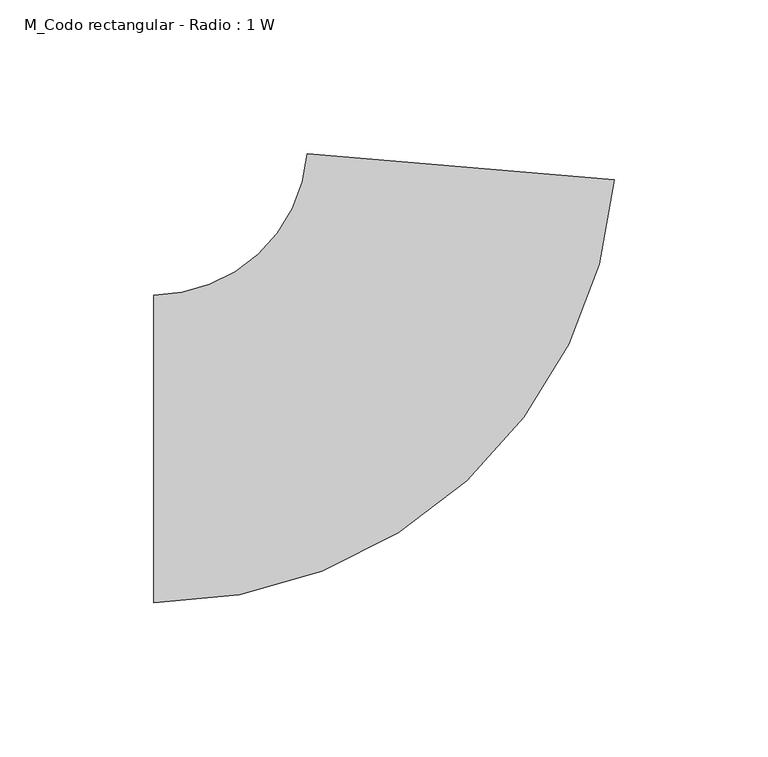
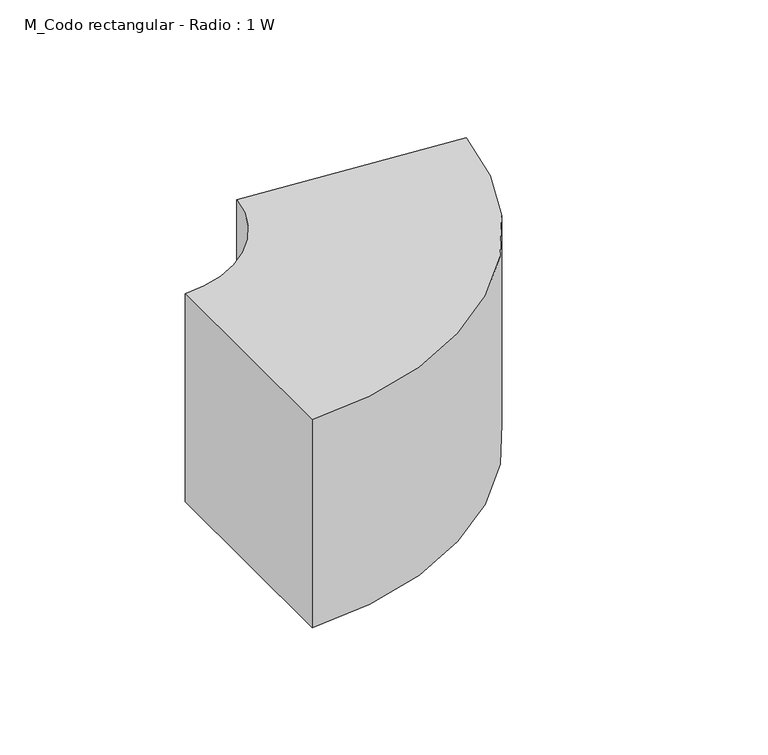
"""IFC4 building model written with IfcOpenShell, lengths in millimetres: duct fitting geometry, M_Codo rectangular - Radio : 1 W."""

import ifcopenshell
import ifcopenshell.guid

model = None  # the IFC model being written
_history = None  # IfcOwnerHistory: only IFC2X3 demands one
_inside = {}  # id of a spatial element -> (the spatial element, [elements in it])
_under = {}  # id of a project, library or spatial element -> (it, [spatial elements below it])
_declared = {}  # id of a project -> (the project, [libraries it declares])
_typed = {}  # id of a type object -> (the type object, [elements of that type])
_made_of = {}  # id of a material, layer set ... -> (it, [elements and type objects made of it])


def new_model(schema):
    """Start an empty IFC model of exactly this schema.

    Asked for "IFC4X3", IfcOpenShell would pick the latest addendum, in which some entities
    have other attributes; the version numbers below select the first issue.
    IFC2X3 requires an IfcOwnerHistory on every rooted entity: one is made here for all.
    """
    global model, _history
    if schema == "IFC4X3":
        model = ifcopenshell.file(schema_version=(4, 3, 0, 0))
    else:
        model = ifcopenshell.file(schema=schema)
    _inside.clear()
    _under.clear()
    _declared.clear()
    _typed.clear()
    _made_of.clear()
    _history = None
    if model.schema == "IFC2X3":
        org = make("IfcOrganization", Name="unknown")
        user = make(
            "IfcPersonAndOrganization",
            ThePerson=make("IfcPerson", FamilyName="unknown"),
            TheOrganization=org,
        )
        app = make(
            "IfcApplication",
            ApplicationDeveloper=org,
            Version="unknown",
            ApplicationFullName="unknown",
            ApplicationIdentifier="unknown",
        )
        _history = make(
            "IfcOwnerHistory",
            OwningUser=user,
            OwningApplication=app,
            ChangeAction="ADDED",
            CreationDate=0,
        )
    return model


def make(cls, **values):
    """One entity of the class cls with the attributes given. An attribute that is None is left unset."""
    return model.create_entity(
        cls, **{name: value for name, value in values.items() if value is not None}
    )


def rooted(cls, **values):
    """An entity with a GlobalId (a new one), such as an element, a storey or a relation."""
    return make(cls, GlobalId=ifcopenshell.guid.new(), OwnerHistory=_history, **values)


def si_unit(unit_type, name, prefix=None):
    """IfcSIUnit, for example si_unit("LENGTHUNIT", "METRE", prefix="MILLI")."""
    return make("IfcSIUnit", UnitType=unit_type, Prefix=prefix, Name=name)


def assignment(units):
    """IfcUnitAssignment: the units of a project."""
    return None if units is None else make("IfcUnitAssignment", Units=units)


def point(xyz):
    """IfcCartesianPoint."""
    return None if xyz is None else make("IfcCartesianPoint", Coordinates=xyz)


def direction(xyz):
    """IfcDirection."""
    return None if xyz is None else make("IfcDirection", DirectionRatios=xyz)


def frame(location, z_axis=None, x_axis=None):
    """IfcAxis2Placement3D, a coordinate frame: its origin and axes. An axis left out is left unset."""
    return make(
        "IfcAxis2Placement3D",
        Location=point(location),
        Axis=direction(z_axis),
        RefDirection=direction(x_axis),
    )


def frame_2d(location, x_axis=None):
    """IfcAxis2Placement2D, a coordinate frame in the plane: its origin and x axis."""
    return make(
        "IfcAxis2Placement2D", Location=point(location), RefDirection=direction(x_axis)
    )


def origin():
    """The frame at (0, 0, 0) with its axes left unset."""
    return frame((0.0, 0.0, 0.0))


def place(relative_to, where):
    """IfcLocalPlacement: puts the frame where relative to a parent placement (None: the world)."""
    return make(
        "IfcLocalPlacement", PlacementRelTo=relative_to, RelativePlacement=where
    )


def context(
    kind, dimensions, precision=None, world=None, true_north=None, identifier=None
):
    """IfcGeometricRepresentationContext, for example the 3D "Model" context."""
    return make(
        "IfcGeometricRepresentationContext",
        ContextIdentifier=identifier,
        ContextType=kind,
        CoordinateSpaceDimension=dimensions,
        Precision=precision,
        WorldCoordinateSystem=world,
        TrueNorth=true_north,
    )


def project(units=None, contexts=None):
    """IfcProject with its units and contexts."""
    return rooted(
        "IfcProject",
        Name="project",
        RepresentationContexts=contexts,
        UnitsInContext=assignment(units),
    )


def spatial(cls, under=None, at=None, **own):
    """A site, building, storey or space (cls), placed at a placement, below another one or the project."""
    s = rooted(cls, ObjectPlacement=at, **own)
    if under is not None:
        _under.setdefault(under.id(), (under, []))[1].append(s)
    return s


def polyline(points):
    """IfcPolyline through the points."""
    return make("IfcPolyline", Points=[point(p) for p in points])


def circle_curve(where, radius):
    """IfcCircle in the frame where."""
    return make("IfcCircle", Position=where, Radius=radius)


def trimmed(basis, trim1, trim2, sense, master):
    """IfcTrimmedCurve: the piece of a basis curve between two trims."""
    return make(
        "IfcTrimmedCurve",
        BasisCurve=basis,
        Trim1=trim1,
        Trim2=trim2,
        SenseAgreement=sense,
        MasterRepresentation=master,
    )


def segment(curve, same_sense, transition):
    """IfcCompositeCurveSegment."""
    return make(
        "IfcCompositeCurveSegment",
        Transition=transition,
        SameSense=same_sense,
        ParentCurve=curve,
    )


def composite_curve(segments, self_intersect=None):
    """IfcCompositeCurve: segments joined end to end."""
    return make("IfcCompositeCurve", Segments=segments, SelfIntersect=self_intersect)


def outline(outer, holes=None, kind="AREA"):
    """IfcArbitraryClosedProfileDef: a profile drawn as a closed curve; with holes, ...WithVoids."""
    if holes is None:
        return make("IfcArbitraryClosedProfileDef", ProfileType=kind, OuterCurve=outer)
    return make(
        "IfcArbitraryProfileDefWithVoids",
        ProfileType=kind,
        OuterCurve=outer,
        InnerCurves=holes,
    )


def extrude(swept, where, along, depth):
    """IfcExtrudedAreaSolid: the profile swept, set in the frame where, extruded along a direction by depth."""
    return make(
        "IfcExtrudedAreaSolid",
        SweptArea=swept,
        Position=where,
        ExtrudedDirection=direction(along),
        Depth=depth,
    )


def shape(context_of_items, identifier, shape_type, items):
    """IfcShapeRepresentation: the items that make up one representation, for example the "Body"."""
    return make(
        "IfcShapeRepresentation",
        ContextOfItems=context_of_items,
        RepresentationIdentifier=identifier,
        RepresentationType=shape_type,
        Items=items,
    )


def source(mapping_origin, context_of_items, identifier, shape_type, items):
    """IfcRepresentationMap: a shape defined once, which mapped items show again and again."""
    return make(
        "IfcRepresentationMap",
        MappingOrigin=mapping_origin,
        MappedRepresentation=shape(context_of_items, identifier, shape_type, items),
    )


def transform(
    local_origin,
    x_axis=None,
    y_axis=None,
    z_axis=None,
    scale=None,
    scale2=None,
    scale3=None,
    uniform=True,
):
    """IfcCartesianTransformationOperator3D, or its non-uniform kind. x_axis, y_axis, z_axis: its Axis1, 2, 3."""
    if uniform:
        return make(
            "IfcCartesianTransformationOperator3D",
            Axis1=direction(x_axis),
            Axis2=direction(y_axis),
            LocalOrigin=point(local_origin),
            Scale=scale,
            Axis3=direction(z_axis),
        )
    return make(
        "IfcCartesianTransformationOperator3DnonUniform",
        Axis1=direction(x_axis),
        Axis2=direction(y_axis),
        LocalOrigin=point(local_origin),
        Scale=scale,
        Axis3=direction(z_axis),
        Scale2=scale2,
        Scale3=scale3,
    )


def mapped(mapping_source, mapping_target):
    """IfcMappedItem: shows the shape of a source again, moved by a transform."""
    return make(
        "IfcMappedItem", MappingSource=mapping_source, MappingTarget=mapping_target
    )


def made_of(thing, what):
    """Note that an element or type object is made of a material, layer set ...; save() writes the relation."""
    if what is not None:
        _made_of.setdefault(what.id(), (what, []))[1].append(thing)
    return thing


def element(
    cls,
    number,
    at=None,
    inside=None,
    cuts=None,
    type_object=None,
    material=None,
    context=None,
    identifier="Body",
    shape_type=None,
    held_by="IfcProductDefinitionShape",
    body=None,
    shapes=None,
    **own,
):
    """One element of the class cls, such as IfcWall. Its Tag is "e" and its number.

    at: its placement. inside: the storey or other place that contains it. cuts: it is an
    opening in that element (IfcRelVoidsElement). A single representation is given by context,
    identifier, shape_type and body (its items); several are given by shapes. held_by: the class
    of the entity that holds the representations. save() writes the other relations.
    """
    e = rooted(cls, Tag="e%d" % number, ObjectPlacement=at, **own)
    if body is not None:
        shapes = [shape(context, identifier, shape_type, body)]
    if shapes is not None:
        e.Representation = make(held_by, Representations=shapes)
    if inside is not None:
        _inside.setdefault(inside.id(), (inside, []))[1].append(e)
    if cuts is not None:
        rooted(
            "IfcRelVoidsElement", RelatingBuildingElement=cuts, RelatedOpeningElement=e
        )
    if type_object is not None:
        _typed.setdefault(type_object.id(), (type_object, []))[1].append(e)
    return made_of(e, material)


def aggregate(whole, parts):
    """IfcRelAggregates: a whole, such as a stair, and the parts it consists of."""
    return rooted("IfcRelAggregates", RelatingObject=whole, RelatedObjects=parts)


def save(model, path):
    """Write the relations noted so far, then the file.

    IfcRelAggregates (storeys below a building ...), IfcRelContainedInSpatialStructure (elements
    in a storey), IfcRelDefinesByType, IfcRelAssociatesMaterial and IfcRelDeclares: one each for
    every whole, place, type object, material and project.
    """
    for whole, parts in _under.values():
        aggregate(whole, parts)
    for where, things in _inside.values():
        rooted(
            "IfcRelContainedInSpatialStructure",
            RelatedElements=things,
            RelatingStructure=where,
        )
    for kind, things in _typed.values():
        rooted("IfcRelDefinesByType", RelatedObjects=things, RelatingType=kind)
    for what, things in _made_of.values():
        rooted("IfcRelAssociatesMaterial", RelatedObjects=things, RelatingMaterial=what)
    for by, libraries in _declared.values():
        rooted("IfcRelDeclares", RelatingContext=by, RelatedDefinitions=libraries)
    model.write(path)


def m_codo_rectangular_radio_1_w_41bcc17c(model_context):
    return source(origin(), model_context, "Body", "SweptSolid", [
        extrude(outline(composite_curve([segment(trimmed(circle_curve(frame_2d((-91.9762602, 100.0)), 150.0), [point((57.5005951, 87.4832212))], [point((-91.9762602, -50.0))], False, "CARTESIAN"), True, "CONTINUOUS"), segment(polyline([(-91.9762602, -50.0), (-91.9762602, 50.0)]), True, "CONTINUOUS"), segment(trimmed(circle_curve(frame_2d((-91.9762602, 100.0)), 50.0), [point((-91.9762602, 50.0))], [point((-42.1506417, 95.8277404))], True, "CARTESIAN"), True, "CONTINUOUS"), segment(polyline([(-42.1506417, 95.8277404), (57.5005951, 87.4832212)]), True, "CONTINUOUS")], self_intersect=False)), frame((0.0, 0.0, -50.0), z_axis=(0.0, 0.0, 1.0), x_axis=(1.0, 0.0, 0.0)), (0.0, 0.0, 1.0), 100.0),
    ])


if __name__ == "__main__":
    model = new_model("IFC4")
    model_context = context("Model", 3, world=origin())
    ifc_project = project(units=[si_unit("LENGTHUNIT", "METRE", prefix="MILLI")], contexts=[model_context])
    site = spatial("IfcSite", under=ifc_project)
    building = spatial("IfcBuilding", under=site)
    placement = place(None, origin())
    m_codo_rectangular_radio_1_w_shape = m_codo_rectangular_radio_1_w_41bcc17c(model_context)
    element("IfcDuctFitting", 1, ObjectType="M_Codo rectangular - Radio : 1 W", at=placement, inside=building, context=model_context, shape_type="MappedRepresentation", body=[
        mapped(m_codo_rectangular_radio_1_w_shape, transform((0.0, 0.0, 0.0), x_axis=(1.0, 0.0, 0.0), y_axis=(0.0, 1.0, 0.0), z_axis=(0.0, 0.0, 1.0))),
    ])
    save(model, "model.ifc")
